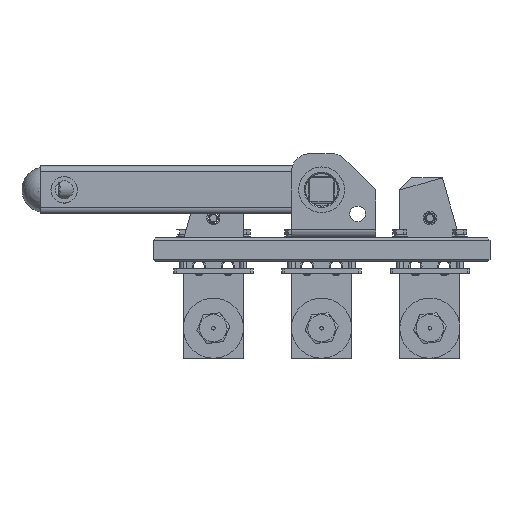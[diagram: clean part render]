
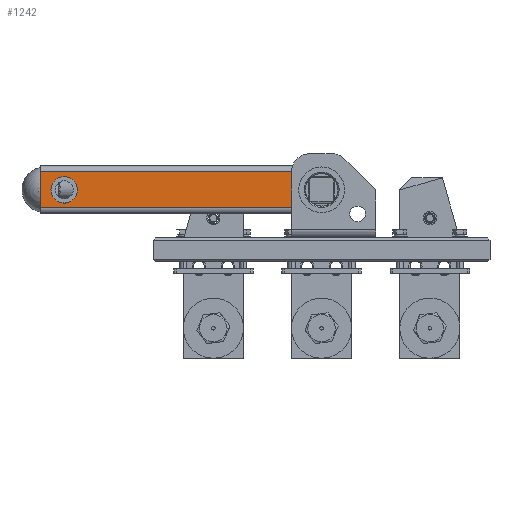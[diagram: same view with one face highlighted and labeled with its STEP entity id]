
A CAD part, left-side view. The second image highlights one B-rep face of the part: STEP entity #1242.
In plain terms, the highlighted planar face has unit normal (-1, 0, 0).
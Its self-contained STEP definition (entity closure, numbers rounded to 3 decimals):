
#831 = ORIENTED_EDGE ( 'NONE', *, *, #55062, .T. ) ;
#847 = VERTEX_POINT ( 'NONE', #65486 ) ;
#848 = EDGE_LOOP ( 'NONE', ( #1251, #1239 ) ) ;
#1160 = EDGE_CURVE ( 'NONE', #1288, #1168, #65796, .T. ) ;
#1168 = VERTEX_POINT ( 'NONE', #65757 ) ;
#1191 = VERTEX_POINT ( 'NONE', #69965 ) ;
#1192 = VERTEX_POINT ( 'NONE', #69910 ) ;
#1206 = EDGE_CURVE ( 'NONE', #1192, #1191, #69985, .T. ) ;
#1208 = ORIENTED_EDGE ( 'NONE', *, *, #1283, .T. ) ;
#1230 = ORIENTED_EDGE ( 'NONE', *, *, #1206, .T. ) ;
#1238 = EDGE_CURVE ( 'NONE', #1241, #1243, #70004, .T. ) ;
#1239 = ORIENTED_EDGE ( 'NONE', *, *, #1238, .T. ) ;
#1240 = EDGE_CURVE ( 'NONE', #1243, #1241, #70006, .T. ) ;
#1241 = VERTEX_POINT ( 'NONE', #70027 ) ;
#1242 = ADVANCED_FACE ( 'NONE', ( #70008, #70059, #70065 ), #70063, .F. ) ;
#1243 = VERTEX_POINT ( 'NONE', #70060 ) ;
#1244 = EDGE_LOOP ( 'NONE', ( #1208, #1230 ) ) ;
#1251 = ORIENTED_EDGE ( 'NONE', *, *, #1240, .T. ) ;
#1283 = EDGE_CURVE ( 'NONE', #1191, #1192, #70079, .T. ) ;
#1288 = VERTEX_POINT ( 'NONE', #70108 ) ;
#1299 = EDGE_CURVE ( 'NONE', #1288, #80667, #70150, .T. ) ;
#20184 = DIRECTION ( 'NONE',  ( 0., 0., -1. ) ) ;
#20203 = VECTOR ( 'NONE', #20184, 1000. ) ;
#20205 = CARTESIAN_POINT ( 'NONE',  ( -158., 234., 60. ) ) ;
#20206 = LINE ( 'NONE', #20205, #20203 ) ;
#20211 = CARTESIAN_POINT ( 'NONE',  ( -158., 234., 55. ) ) ;
#23107 = CARTESIAN_POINT ( 'NONE',  ( -158., -20., 25. ) ) ;
#23152 = DIRECTION ( 'NONE',  ( 0., 1., 0. ) ) ;
#23153 = VECTOR ( 'NONE', #23152, 1000. ) ;
#23158 = LINE ( 'NONE', #23107, #23153 ) ;
#42470 = EDGE_LOOP ( 'NONE', ( #831, #55130, #55075, #56103 ) ) ;
#55062 = EDGE_CURVE ( 'NONE', #80667, #847, #20206, .T. ) ;
#55075 = ORIENTED_EDGE ( 'NONE', *, *, #1160, .F. ) ;
#55130 = ORIENTED_EDGE ( 'NONE', *, *, #56153, .F. ) ;
#56103 = ORIENTED_EDGE ( 'NONE', *, *, #1299, .T. ) ;
#56153 = EDGE_CURVE ( 'NONE', #1168, #847, #23158, .T. ) ;
#65486 = CARTESIAN_POINT ( 'NONE',  ( -158., 234., 25. ) ) ;
#65757 = CARTESIAN_POINT ( 'NONE',  ( -158., -20., 25. ) ) ;
#65781 = DIRECTION ( 'NONE',  ( 0., 0., -1. ) ) ;
#65783 = VECTOR ( 'NONE', #65781, 1000. ) ;
#65785 = CARTESIAN_POINT ( 'NONE',  ( -158., -20., 60. ) ) ;
#65796 = LINE ( 'NONE', #65785, #65783 ) ;
#69910 = CARTESIAN_POINT ( 'NONE',  ( -158., 214., 28.95 ) ) ;
#69942 = DIRECTION ( 'NONE',  ( 1., 0., 0. ) ) ;
#69965 = CARTESIAN_POINT ( 'NONE',  ( -158., 214., 51.05 ) ) ;
#69975 = DIRECTION ( 'NONE',  ( 0., 0., 1. ) ) ;
#69984 = CARTESIAN_POINT ( 'NONE',  ( -158., 214., 40. ) ) ;
#69985 = CIRCLE ( 'NONE', #69990, 11.05 ) ;
#69990 = AXIS2_PLACEMENT_3D ( 'NONE', #69984, #69942, #69975 ) ;
#69995 = AXIS2_PLACEMENT_3D ( 'NONE', #70005, #70010, #70062 ) ;
#70004 = CIRCLE ( 'NONE', #69995, 10. ) ;
#70005 = CARTESIAN_POINT ( 'NONE',  ( -158., 0., 40. ) ) ;
#70006 = CIRCLE ( 'NONE', #70064, 10. ) ;
#70008 = FACE_BOUND ( 'NONE', #848, .T. ) ;
#70010 = DIRECTION ( 'NONE',  ( 1., 0., 0. ) ) ;
#70027 = CARTESIAN_POINT ( 'NONE',  ( -158., 0., 30. ) ) ;
#70049 = DIRECTION ( 'NONE',  ( 0., 0., 1. ) ) ;
#70053 = DIRECTION ( 'NONE',  ( 1., 0., 0. ) ) ;
#70054 = CARTESIAN_POINT ( 'NONE',  ( -158., -20., 60. ) ) ;
#70055 = DIRECTION ( 'NONE',  ( 0., 0., 1. ) ) ;
#70056 = DIRECTION ( 'NONE',  ( 1., 0., 0. ) ) ;
#70057 = AXIS2_PLACEMENT_3D ( 'NONE', #70054, #70053, #70049 ) ;
#70059 = FACE_BOUND ( 'NONE', #1244, .T. ) ;
#70060 = CARTESIAN_POINT ( 'NONE',  ( -158., 0., 50. ) ) ;
#70061 = CARTESIAN_POINT ( 'NONE',  ( -158., 0., 40. ) ) ;
#70062 = DIRECTION ( 'NONE',  ( 0., 0., 1. ) ) ;
#70063 = PLANE ( 'NONE',  #70057 ) ;
#70064 = AXIS2_PLACEMENT_3D ( 'NONE', #70061, #70056, #70055 ) ;
#70065 = FACE_OUTER_BOUND ( 'NONE', #42470, .T. ) ;
#70079 = CIRCLE ( 'NONE', #70127, 11.05 ) ;
#70108 = CARTESIAN_POINT ( 'NONE',  ( -158., -20., 55. ) ) ;
#70116 = DIRECTION ( 'NONE',  ( 0., 0., 1. ) ) ;
#70117 = DIRECTION ( 'NONE',  ( 1., 0., 0. ) ) ;
#70118 = CARTESIAN_POINT ( 'NONE',  ( -158., 214., 40. ) ) ;
#70127 = AXIS2_PLACEMENT_3D ( 'NONE', #70118, #70117, #70116 ) ;
#70143 = DIRECTION ( 'NONE',  ( 0., 1., 0. ) ) ;
#70144 = VECTOR ( 'NONE', #70143, 1000. ) ;
#70145 = CARTESIAN_POINT ( 'NONE',  ( -158., -20., 55. ) ) ;
#70150 = LINE ( 'NONE', #70145, #70144 ) ;
#80667 = VERTEX_POINT ( 'NONE', #20211 ) ;
